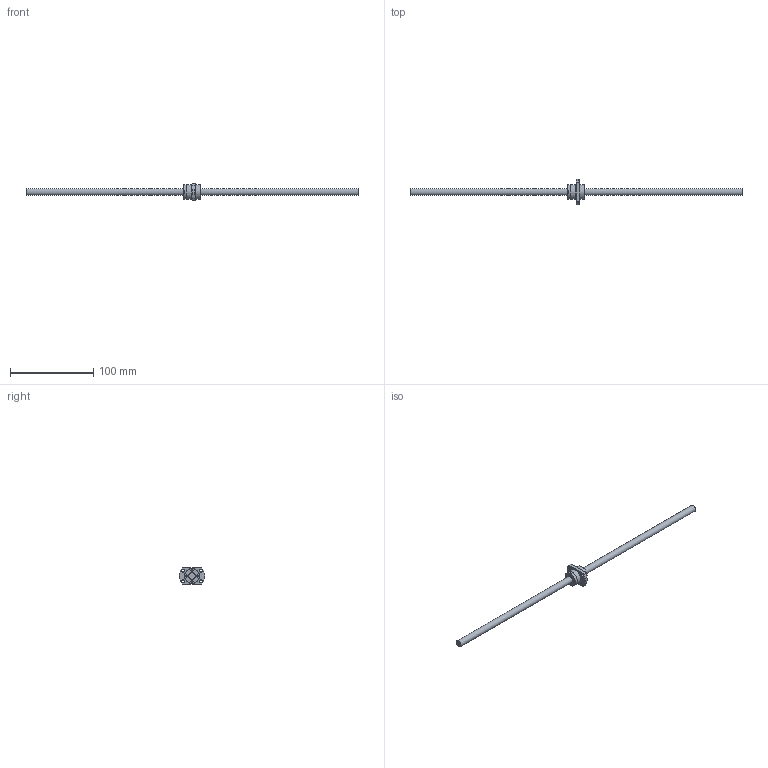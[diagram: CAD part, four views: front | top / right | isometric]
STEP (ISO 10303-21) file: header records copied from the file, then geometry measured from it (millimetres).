
FILE_DESCRIPTION( ( 'STEP AP214' ), ' ' );
FILE_NAME( 'p:/temp/worker_4/1548_2664/app_54_12015091121535875528864260eae72_000000_00_00_000000/format_0/SR0808-400R400C7(190).stp', '2015-09-11T19:53:59', ( '' ), ( '' ), ' ', 'PARTsolutions', ' ' );
FILE_SCHEMA( ( 'AUTOMOTIVE_DESIGN { 1 0 10303 214 1 1 1 1 }' ) );
Length unit declared in the file: millimetre
Products named in the file (3): SR0808-400R400C7(190); _SR0808-400R400C7(190)_shaft; _SR0808-400R400C7C7_nut
Assembly tree (2 placements, depth 2):
  SR0808-400R400C7(190)
    _SR0808-400R400C7(190)_shaft
    _SR0808-400R400C7C7_nut
Bounding box: 400 x 30.91 x 20 mm (x, y, z)
Volume: 25152.4 mm3; surface area: 13117.6 mm2
Topology: 2 solids, 2 shells, 84 faces, 200 edges, 131 vertices
Faces by surface type: plane 55, cylinder 21, cone 8
Full cylindrical faces by diameter (mm): 2.15 x1, 2.5 x1, 3.4 x4, 8 x2, 17.5 x3, 18 x2
Entity records: 3076 total; most frequent: CARTESIAN_POINT 421, DIRECTION 404, ORIENTED_EDGE 362, EDGE_CURVE 181, AXIS2_PLACEMENT_3D 144, VERTEX_POINT 129, EDGE_LOOP 122, LINE 116
